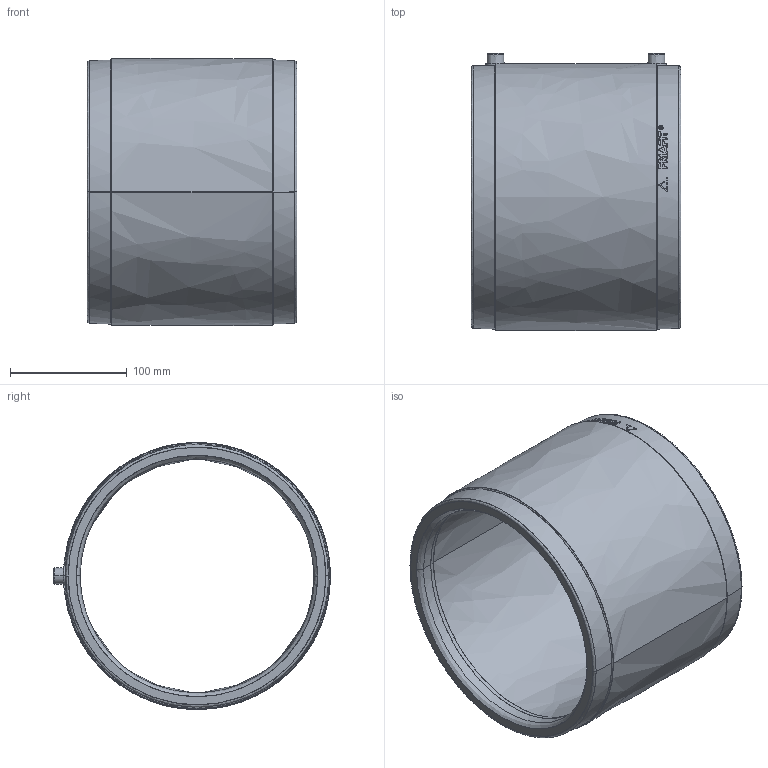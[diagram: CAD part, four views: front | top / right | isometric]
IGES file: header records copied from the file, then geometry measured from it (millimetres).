
Start section:  PTC IGES file: am_d200.igs
Global section: file name: am_d200.igs; native system: Pro/ENGINEER by Parametric Technology Corporation; preprocessor: 2011490; author: mtunjic; organization: Unknown; date: 20130729.163515; units: millimetre
Bounding box: 180 x 237.6 x 229 mm (x, y, z)
Surface area: 259640.4 mm2 (no closed solid volume)
Topology: 0 solids, 0 shells, 231 faces, 1080 edges, 1080 vertices
Faces by surface type: bspline 231
